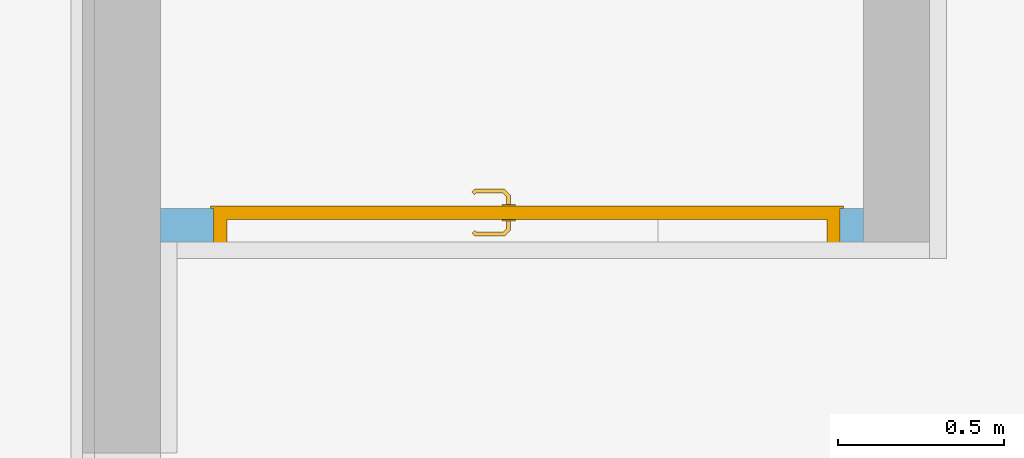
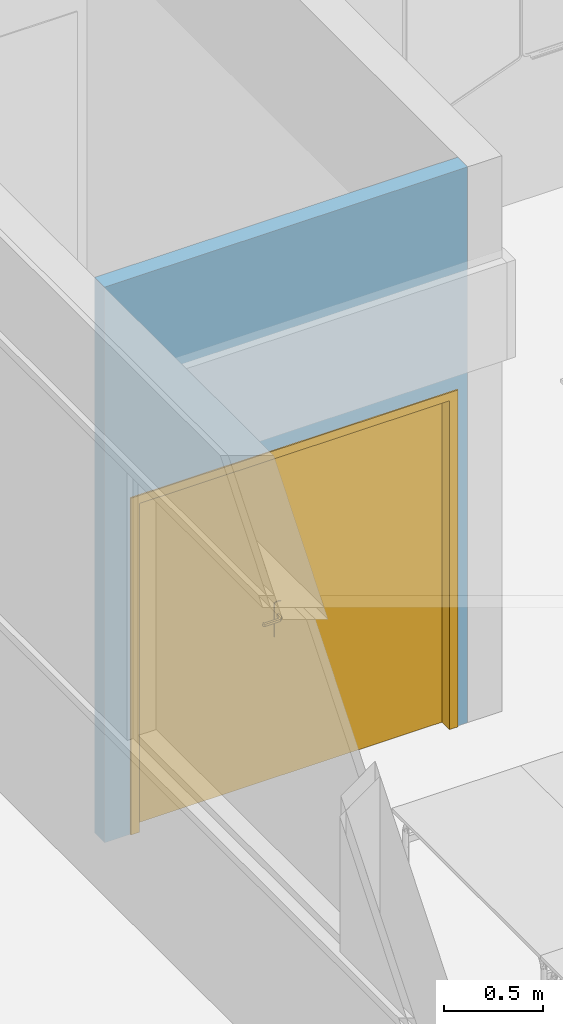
# One storey, part 104 of 137: 1 door, 1 opening, plus 1 element that does not belong to this part.
"""IFC2X3 building model written with IfcOpenShell, lengths in centimetres."""

from ifc_helpers import new_model, entity, si_unit, converted_unit, derived_unit, direction, frame, frame_2d, origin, place, context, subcontext, project, spatial, rectangle, extrude, faceted_brep, source, transform, mapped, material, material_list, layer, layer_set, layer_usage, type_object, type_shapes, element, fill, save


model = new_model("IFC2X3")

# Units and contexts
model_context = context("Model", 3, precision=0.001, world=origin(), true_north=direction((6.12303176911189e-17, 1.0)))
body_context = subcontext(model_context, "Body", "Model", "MODEL_VIEW")
ifc_project = project(units=[si_unit("LENGTHUNIT", "METRE", prefix="CENTI"), si_unit("AREAUNIT", "SQUARE_METRE"), si_unit("VOLUMEUNIT", "CUBIC_METRE"), converted_unit("PLANEANGLEUNIT", "DEGREE", entity("IfcRatioMeasure", 0.0174532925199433), si_unit("PLANEANGLEUNIT", "RADIAN"), dimensions=[0, 0, 0, 0, 0, 0, 0]), si_unit("MASSUNIT", "GRAM", prefix="KILO"), si_unit("TIMEUNIT", "SECOND"), si_unit("FREQUENCYUNIT", "HERTZ"), si_unit("THERMODYNAMICTEMPERATUREUNIT", "DEGREE_CELSIUS"), derived_unit("THERMALTRANSMITTANCEUNIT", [(si_unit("MASSUNIT", "GRAM", prefix="KILO"), 1), (si_unit("THERMODYNAMICTEMPERATUREUNIT", "KELVIN"), -1), (si_unit("TIMEUNIT", "SECOND"), -3)]), derived_unit("VOLUMETRICFLOWRATEUNIT", [(si_unit("LENGTHUNIT", "METRE"), 3), (si_unit("TIMEUNIT", "SECOND"), -1)]), si_unit("ELECTRICCURRENTUNIT", "AMPERE"), si_unit("ELECTRICVOLTAGEUNIT", "VOLT"), si_unit("POWERUNIT", "WATT"), si_unit("FORCEUNIT", "NEWTON", prefix="KILO"), si_unit("ILLUMINANCEUNIT", "LUX"), si_unit("LUMINOUSFLUXUNIT", "LUMEN"), si_unit("LUMINOUSINTENSITYUNIT", "CANDELA"), derived_unit("USERDEFINED", [(si_unit("MASSUNIT", "GRAM", prefix="KILO"), -1), (si_unit("LENGTHUNIT", "METRE"), -2), (si_unit("TIMEUNIT", "SECOND"), 3), (si_unit("LUMINOUSFLUXUNIT", "LUMEN"), 1)]), derived_unit("LINEARVELOCITYUNIT", [(si_unit("LENGTHUNIT", "METRE"), 1), (si_unit("TIMEUNIT", "SECOND"), -1)]), si_unit("PRESSUREUNIT", "PASCAL"), derived_unit("USERDEFINED", [(si_unit("LENGTHUNIT", "METRE"), -2), (si_unit("MASSUNIT", "GRAM", prefix="KILO"), 1), (si_unit("TIMEUNIT", "SECOND"), -2)])], contexts=[model_context])

# Site, building, storey
site_placement = place(None, frame((8.62739174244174, -249.285249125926, 0.0)))
site = spatial("IfcSite", under=ifc_project, at=site_placement, Name="Default", CompositionType="ELEMENT")
building_placement = place(site_placement, origin())
building = spatial("IfcBuilding", under=site, at=building_placement, CompositionType="ELEMENT")
storey_placement = place(building_placement, origin())
storey = spatial("IfcBuildingStorey", under=building, at=storey_placement, Name="RDC", CompositionType="ELEMENT", Elevation=-8.82465566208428e-11)

# Wall, opening, door
ifc_material_1 = material(Name="Stuc")
ifc_layer = layer(ifc_material_1, 10.0)
ifc_layer_set = layer_set([ifc_layer], Name="Mur de base:CIM 10")
ifc_layer_usage = layer_usage(ifc_layer_set, "AXIS2", "NEGATIVE", 5.0)
wall_type = type_object("IfcWallType", Name="Mur de base:CIM 10", PredefinedType="STANDARD", material=ifc_layer_set)
wall_placement = place(storey_placement, frame((3265.9048276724, 6554.98018879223, 0.0), z_axis=(0.0, 0.0, 1.0), x_axis=(-1.0, 0.0, 0.0)))
wall = element("IfcWallStandardCase", 1, at=wall_placement, inside=storey, type_object=wall_type, material=ifc_layer_usage, Name="Mur de base:CIM 10", ObjectType="Mur de base:CIM 10", context=body_context, shape_type="SweptSolid", body=[
    extrude(rectangle(XDim=211.999999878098, YDim=9.99999999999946, at=frame_2d((105.999999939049, 4.30766533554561e-14), x_axis=(-1.0, 0.0))), origin(), (0.0, 0.0, 1.0), 343.000000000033),
])
opening_placement = place(wall_placement, frame((196.0, 5.0, 0.0)))
opening = element("IfcOpeningElement", 2, at=opening_placement, cuts=wall, Name="Double(R)_bois_mu:183 x 204 cm:1", ObjectType="Opening", context=body_context, shape_type="SweptSolid", body=[
    extrude(rectangle(XDim=206.999999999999, YDim=189.0, at=frame_2d((103.499999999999, 94.4999999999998), x_axis=(1.0, 0.0))), frame((0.0, 0.0, 0.0), z_axis=(0.0, -1.0, 0.0), x_axis=(0.0, 0.0, 1.0)), (0.0, 0.0, 1.0), 10.0),
])
ifc_material_2 = material(Name="Porte - Poignée")
ifc_material_3 = material(Name="Porte - Cadre")
ifc_material_4 = material(Name="Porte - Panneau")
ifc_material_list_1 = material_list([ifc_material_2, ifc_material_3, ifc_material_4])
ifc_material_list_2 = material_list([ifc_material_2, ifc_material_3, ifc_material_4])
door_style = type_object("IfcDoorStyle", Name="183 x 204 cm", ConstructionType="NOTDEFINED", OperationType="DOUBLE_DOOR_SINGLE_SWING", ParameterTakesPrecedence=False, Sizeable=False, material=ifc_material_list_2)
shared_shape = source(origin(), body_context, "Body", "Brep", [
    faceted_brep([(99.7974701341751, 3.69999999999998, 100.778044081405), (99.3999999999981, 3.69999999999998, 100.699999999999), (99.3999999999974, 3.69999999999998, 99.2999999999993), (99.7974701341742, 3.69999999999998, 99.2219559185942), (100.202529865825, 3.69999999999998, 99.2219559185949), (100.600000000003, 3.69999999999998, 99.3000000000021), (100.600000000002, 3.69999999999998, 100.699999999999), (100.202529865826, 3.69999999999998, 100.778044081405), (100.600000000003, 5.94852045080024, 99.3000000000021), (100.600000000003, 5.94852045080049, 100.699999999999), (100.202529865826, 6.1131579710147, 100.778044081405), (101.58389061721, 7.49451872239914, 100.778044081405), (101.416109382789, 7.89957845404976, 100.778044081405), (99.7974701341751, 6.2809392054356, 100.778044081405), (110.568474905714, 6.84673156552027, 100.778044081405), (110.854895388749, 7.13315204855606, 100.778044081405), (110.088468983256, 7.89957845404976, 100.778044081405), (109.920687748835, 7.49451872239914, 100.778044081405), (99.3999999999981, 6.44557672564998, 100.699999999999), (99.3999999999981, 6.44557672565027, 99.2999999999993), (99.7974701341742, 6.28093920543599, 99.2219559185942), (101.416109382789, 7.8995784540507, 99.2219559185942), (101.58389061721, 7.49451872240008, 99.2219559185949), (100.202529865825, 6.11315797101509, 99.2219559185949), (110.85489538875, 7.1331520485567, 99.2219559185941), (110.568474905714, 6.84673156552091, 99.2219559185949), (109.920687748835, 7.49451872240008, 99.2219559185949), (110.088468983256, 7.8995784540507, 99.2219559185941), (101.748528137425, 7.09704858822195, 99.3000000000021), (101.748528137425, 7.09704858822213, 100.699999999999), (101.251471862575, 8.29704858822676, 100.699999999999), (101.251471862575, 8.29704858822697, 99.2999999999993), (105.752290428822, 7.09704858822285, 99.3000000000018), (109.75605022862, 7.09704858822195, 99.3000000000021), (109.756050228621, 7.09704858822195, 100.699999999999), (105.752289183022, 7.09704858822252, 100.699999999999), (105.75228918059, 7.71249275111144, 100.787811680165), (110.25310650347, 8.29704858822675, 100.699999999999), (106.260057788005, 8.29704858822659, 100.699999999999), (110.25310650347, 8.29704858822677, 99.2999999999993), (105.244520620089, 8.29704858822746, 99.2999999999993), (105.752289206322, 7.71249274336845, 99.2121883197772), (110.287421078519, 6.56567773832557, 99.3000000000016), (111.135949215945, 7.41420587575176, 99.2999999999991), (111.135949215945, 7.4142058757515, 100.699999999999), (110.287421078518, 6.5656777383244, 100.699999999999)], [[[0, 1, 2, 3, 4, 5, 6, 7]], [[6, 5, 8, 9]], [[9, 10, 7, 6]], [[10, 11, 12, 13, 0, 7]], [[14, 15, 16, 17]], [[13, 18, 1, 0]], [[2, 1, 18, 19]], [[19, 20, 3, 2]], [[20, 21, 22, 23, 4, 3]], [[24, 25, 26, 27]], [[23, 8, 5, 4]], [[9, 8, 28, 29]], [[29, 11, 10, 9]], [[12, 30, 18, 13]], [[19, 18, 30, 31]], [[31, 21, 20, 19]], [[22, 28, 8, 23]], [[29, 28, 32, 33, 34, 35]], [[11, 35, 36]], [[16, 37, 38]], [[30, 12, 38]], [[38, 12, 36]], [[36, 35, 17]], [[17, 16, 36]], [[35, 11, 29]], [[34, 17, 35]], [[11, 36, 12]], [[38, 36, 16]], [[31, 30, 38, 37, 39, 40]], [[40, 41, 21]], [[41, 40, 27]], [[21, 31, 40]], [[39, 27, 40]], [[41, 32, 22]], [[22, 21, 41]], [[26, 32, 41]], [[28, 22, 32]], [[32, 26, 33]], [[26, 41, 27]], [[42, 25, 24, 43, 44, 15, 14, 45]], [[34, 33, 42, 45]], [[45, 14, 17, 34]], [[15, 44, 37, 16]], [[39, 37, 44, 43]], [[43, 24, 27, 39]], [[25, 42, 33, 26]]]),
    faceted_brep([(99.7974701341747, -1.30000000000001, 100.778044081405), (100.202529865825, -1.30000000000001, 100.778044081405), (100.600000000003, -1.30000000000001, 100.699999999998), (100.600000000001, -1.30000000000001, 99.3000000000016), (100.202529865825, -1.30000000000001, 99.2219559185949), (99.7974701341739, -1.30000000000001, 99.2219559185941), (99.3999999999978, -1.30000000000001, 99.2999999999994), (99.3999999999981, -1.30000000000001, 100.699999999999), (99.3999999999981, -4.06509507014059, 100.699999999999), (99.7974701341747, -3.90045754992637, 100.778044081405), (101.402358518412, -5.50534593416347, 100.778044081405), (101.570139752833, -5.10028620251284, 100.778044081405), (100.202529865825, -3.73267631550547, 100.778044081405), (110.852181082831, -4.73891952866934, 100.778044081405), (110.565760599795, -4.4524990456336, 100.778044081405), (109.917973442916, -5.10028620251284, 100.778044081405), (110.085754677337, -5.50534593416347, 100.778044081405), (100.600000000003, -3.56803879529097, 100.699999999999), (100.600000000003, -3.56803879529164, 99.3000000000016), (100.202529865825, -3.7326763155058, 99.2219559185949), (101.570139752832, -5.10028620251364, 99.2219559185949), (101.402358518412, -5.50534593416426, 99.2219559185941), (99.7974701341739, -3.9004575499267, 99.2219559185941), (110.565760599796, -4.45249904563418, 99.2219559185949), (110.852181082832, -4.73891952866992, 99.2219559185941), (110.085754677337, -5.50534593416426, 99.2219559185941), (109.917973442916, -5.10028620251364, 99.2219559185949), (99.3999999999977, -4.06509507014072, 99.2999999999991), (101.237720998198, -5.90281606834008, 100.699999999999), (101.734777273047, -4.70281606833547, 100.699999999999), (101.734777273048, -4.70281606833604, 99.3000000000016), (101.237720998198, -5.90281606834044, 99.2999999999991), (105.230769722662, -5.90281606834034, 100.699999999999), (105.744056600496, -5.31828027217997, 100.787811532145), (110.250392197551, -5.90281606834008, 100.699999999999), (105.744056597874, -4.70281606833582, 100.699999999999), (109.753335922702, -4.70281606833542, 100.699999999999), (109.753335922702, -4.70281606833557, 99.3000000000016), (105.744056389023, -4.70281606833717, 99.3000000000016), (105.744056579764, -5.31828027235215, 99.2121884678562), (110.250392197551, -5.90281606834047, 99.2999999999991), (106.257343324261, -5.90281606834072, 99.2999999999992), (110.2847067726, -4.1714452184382, 100.699999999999), (111.133234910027, -5.01997335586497, 100.699999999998), (111.133234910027, -5.01997335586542, 99.2999999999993), (110.284706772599, -4.17144521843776, 99.3000000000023)], [[[0, 1, 2, 3, 4, 5, 6, 7]], [[8, 9, 0, 7]], [[9, 10, 11, 12, 1, 0]], [[13, 14, 15, 16]], [[12, 17, 2, 1]], [[3, 2, 17, 18]], [[18, 19, 4, 3]], [[19, 20, 21, 22, 5, 4]], [[23, 24, 25, 26]], [[22, 27, 6, 5]], [[7, 6, 27, 8]], [[28, 10, 9, 8]], [[11, 29, 17, 12]], [[18, 17, 29, 30]], [[30, 20, 19, 18]], [[21, 31, 27, 22]], [[8, 27, 31, 28]], [[32, 33, 10]], [[33, 32, 16]], [[10, 28, 32]], [[34, 16, 32]], [[33, 35, 11]], [[11, 10, 33]], [[15, 35, 33]], [[29, 11, 35]], [[35, 15, 36]], [[15, 33, 16]], [[30, 29, 35, 36, 37, 38]], [[20, 38, 39]], [[25, 40, 41]], [[31, 21, 41]], [[41, 21, 39]], [[39, 38, 26]], [[26, 25, 39]], [[38, 20, 30]], [[37, 26, 38]], [[20, 39, 21]], [[41, 39, 25]], [[28, 31, 41, 40, 34, 32]], [[42, 14, 13, 43, 44, 24, 23, 45]], [[43, 13, 16, 34]], [[14, 42, 36, 15]], [[37, 36, 42, 45]], [[45, 23, 26, 37]], [[24, 44, 40, 25]], [[34, 40, 44, 43]]]),
    faceted_brep([(101.03527618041, 3.19999999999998, 86.6003983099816), (102.0, 3.19999999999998, 87.0), (102.0, 3.19999999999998, 108.0), (101.03527618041, 3.19999999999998, 108.399601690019), (100.0, 3.19999999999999, 108.535898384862), (98.9647238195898, 3.19999999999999, 108.399601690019), (98.0, 3.19999999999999, 108.0), (98.0, 3.19999999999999, 87.0), (98.9647238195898, 3.19999999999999, 86.6003983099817), (100.0, 3.19999999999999, 86.4641016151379), (101.03527618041, 3.69999999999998, 108.399601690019), (102.0, 3.69999999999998, 108.0), (102.0, 3.69999999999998, 87.0), (101.03527618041, 3.69999999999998, 86.6003983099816), (100.0, 3.69999999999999, 86.4641016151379), (98.9647238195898, 3.69999999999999, 86.6003983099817), (98.0, 3.69999999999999, 87.0), (98.0, 3.69999999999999, 108.0), (98.9647238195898, 3.69999999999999, 108.399601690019), (100.0, 3.69999999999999, 108.535898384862)], [[[0, 1, 2, 3, 4, 5, 6, 7, 8, 9]], [[10, 11, 12, 13, 14, 15, 16, 17, 18, 19]], [[11, 10, 3, 2]], [[3, 10, 19, 4]], [[19, 18, 5, 4]], [[18, 17, 6, 5]], [[7, 6, 17, 16]], [[16, 15, 8, 7]], [[8, 15, 14, 9]], [[14, 13, 0, 9]], [[13, 12, 1, 0]], [[2, 1, 12, 11]]]),
    faceted_brep([(101.03527618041, -1.30000000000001, 86.6003983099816), (102.0, -1.30000000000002, 87.0), (102.0, -1.30000000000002, 108.0), (101.03527618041, -1.30000000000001, 108.399601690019), (100.0, -1.30000000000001, 108.535898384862), (98.9647238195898, -1.30000000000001, 108.399601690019), (98.0, -1.3, 108.0), (98.0, -1.3, 87.0), (98.9647238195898, -1.30000000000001, 86.6003983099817), (100.0, -1.30000000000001, 86.4641016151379), (101.03527618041, -0.800000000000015, 108.399601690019), (102.0, -0.800000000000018, 108.0), (102.0, -0.800000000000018, 87.0), (101.03527618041, -0.800000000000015, 86.6003983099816), (100.0, -0.800000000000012, 86.4641016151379), (98.9647238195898, -0.800000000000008, 86.6003983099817), (98.0, -0.800000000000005, 87.0), (98.0, -0.800000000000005, 108.0), (98.9647238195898, -0.800000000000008, 108.399601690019), (100.0, -0.800000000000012, 108.535898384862)], [[[0, 1, 2, 3, 4, 5, 6, 7, 8, 9]], [[10, 11, 12, 13, 14, 15, 16, 17, 18, 19]], [[16, 15, 8, 7]], [[8, 15, 14, 9]], [[14, 13, 0, 9]], [[13, 12, 1, 0]], [[2, 1, 12, 11]], [[11, 10, 3, 2]], [[3, 10, 19, 4]], [[19, 18, 5, 4]], [[18, 17, 6, 5]], [[7, 6, 17, 16]]]),
    faceted_brep([(0.0, 0.0, 0.0), (0.0, 10.0, 0.0), (-1.0, 10.0, 0.0), (-1.0, 10.8000000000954, 0.0), (4.0, 10.8000000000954, 0.0), (4.0, 3.2, 0.0), (3.0, 3.2, 0.0), (3.0, -0.799999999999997, 0.0), (-1.0, -0.799999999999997, 0.0), (-1.0, 0.0, 0.0), (0.0, 0.0, 207.0), (0.0, 10.0, 207.0), (189.0, 10.0, 207.0), (189.0, 10.0, 0.0), (190.0, 10.0, 0.0), (190.0, 10.0, 208.0), (-1.0, 10.0, 208.0), (-1.0, 10.8000000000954, 208.0), (190.0, 10.8000000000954, 208.0), (190.0, 10.8000000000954, 0.0), (185.0, 10.8000000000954, 0.0), (185.0, 10.8000000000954, 203.0), (4.0, 10.8000000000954, 203.0), (4.0, 3.2, 203.0), (185.0, 3.2, 203.0), (185.0, 3.2, 0.0), (186.0, 3.2, 0.0), (186.0, 3.2, 204.0), (3.0, 3.2, 204.0), (3.0, -0.799999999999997, 204.0), (186.0, -0.799999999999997, 204.0), (186.0, -0.799999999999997, 0.0), (190.0, -0.799999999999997, 0.0), (190.0, -0.799999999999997, 208.0), (-1.0, -0.799999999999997, 208.0), (-1.0, 0.0, 208.0), (190.0, 0.0, 208.0), (190.0, 0.0, 0.0), (189.0, 0.0, 0.0), (189.0, 0.0, 207.0)], [[[0, 1, 2, 3, 4, 5, 6, 7, 8, 9]], [[1, 0, 10, 11]], [[2, 1, 11, 12, 13, 14, 15, 16]], [[3, 2, 16, 17]], [[4, 3, 17, 18, 19, 20, 21, 22]], [[5, 4, 22, 23]], [[6, 5, 23, 24, 25, 26, 27, 28]], [[7, 6, 28, 29]], [[8, 7, 29, 30, 31, 32, 33, 34]], [[9, 8, 34, 35]], [[0, 9, 35, 36, 37, 38, 39, 10]], [[12, 39, 38, 13]], [[38, 37, 32, 31, 26, 25, 20, 19, 14, 13]], [[18, 15, 14, 19]], [[24, 21, 20, 25]], [[30, 27, 26, 31]], [[36, 33, 32, 37]], [[11, 10, 39, 12]], [[17, 16, 15, 18]], [[23, 22, 21, 24]], [[29, 28, 27, 30]], [[35, 34, 33, 36]]]),
    faceted_brep([(186.0, -0.799999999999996, 0.0), (186.0, -0.799999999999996, 204.0), (94.4999999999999, -0.799999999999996, 204.0), (94.4999999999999, -0.799999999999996, 0.0), (186.0, 3.2, 0.0), (94.4999999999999, 3.2, 0.0), (94.4999999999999, 3.2, 204.0), (186.0, 3.2, 204.0)], [[[0, 1, 2, 3]], [[4, 5, 6, 7]], [[1, 0, 4, 7]], [[2, 1, 7, 6]], [[3, 2, 6, 5]], [[0, 3, 5, 4]]]),
    faceted_brep([(3.0, -0.799999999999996, 204.0), (3.0, -0.799999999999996, 0.0), (94.4999999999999, -0.799999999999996, 0.0), (94.4999999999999, -0.799999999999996, 204.0), (3.0, 3.2, 204.0), (94.4999999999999, 3.2, 204.0), (94.4999999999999, 3.2, 0.0), (3.0, 3.2, 0.0)], [[[0, 1, 2, 3]], [[4, 5, 6, 7]], [[1, 0, 4, 7]], [[2, 1, 7, 6]], [[3, 2, 6, 5]], [[0, 3, 5, 4]]]),
])
type_shapes(door_style, [shared_shape])
door_placement = place(opening_placement, frame((-189.0, -10.0, 0.0)))
door = element("IfcDoor", 3, at=door_placement, inside=storey, type_object=door_style, material=ifc_material_list_1, Name="Double(R)_bois_mu:183 x 204 cm", ObjectType="183 x 204 cm", OverallHeight=206.999999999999, OverallWidth=189.0, context=body_context, shape_type="MappedRepresentation", body=[
    mapped(shared_shape, transform((0.0, 0.0, 0.0), scale=1.0)),
])
fill(opening, door)

save(model, "model.ifc")
